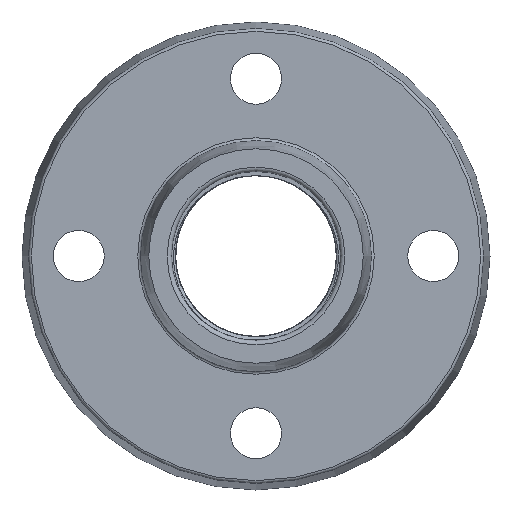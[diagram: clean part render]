
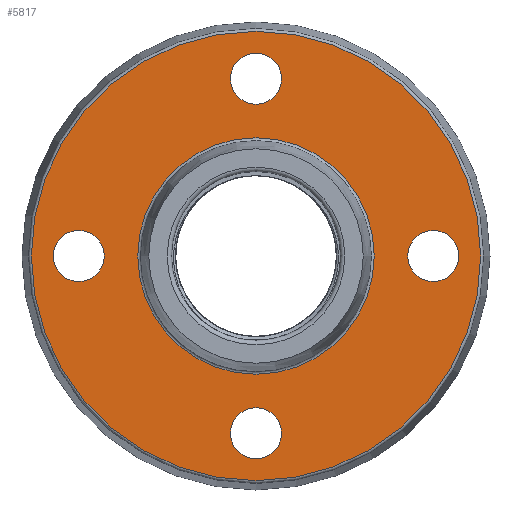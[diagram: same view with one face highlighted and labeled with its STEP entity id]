
A CAD part, left-side view. The second image highlights one B-rep face of the part: STEP entity #5817.
In plain terms, the highlighted planar face has unit normal (-1, 0, 0).
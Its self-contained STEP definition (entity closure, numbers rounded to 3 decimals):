
#90=FACE_BOUND('',#1576,.T.);
#91=FACE_BOUND('',#1577,.T.);
#92=FACE_BOUND('',#1578,.T.);
#93=FACE_BOUND('',#1579,.T.);
#94=FACE_BOUND('',#1580,.T.);
#153=PLANE('',#6839);
#1126=FACE_OUTER_BOUND('',#1575,.T.);
#1575=EDGE_LOOP('',(#5176));
#1576=EDGE_LOOP('',(#5177));
#1577=EDGE_LOOP('',(#5178));
#1578=EDGE_LOOP('',(#5179));
#1579=EDGE_LOOP('',(#5180));
#1580=EDGE_LOOP('',(#5181));
#2229=CIRCLE('',#6823,9.);
#2231=CIRCLE('',#6827,9.);
#2233=CIRCLE('',#6831,9.);
#2235=CIRCLE('',#6835,9.);
#2236=CIRCLE('',#6837,41.674);
#2238=CIRCLE('',#6840,79.199);
#2694=VERTEX_POINT('',#10963);
#2696=VERTEX_POINT('',#10969);
#2698=VERTEX_POINT('',#10975);
#2700=VERTEX_POINT('',#10981);
#2701=VERTEX_POINT('',#10984);
#2703=VERTEX_POINT('',#10989);
#3531=EDGE_CURVE('',#2694,#2694,#2229,.T.);
#3533=EDGE_CURVE('',#2696,#2696,#2231,.T.);
#3535=EDGE_CURVE('',#2698,#2698,#2233,.T.);
#3537=EDGE_CURVE('',#2700,#2700,#2235,.T.);
#3538=EDGE_CURVE('',#2701,#2701,#2236,.T.);
#3540=EDGE_CURVE('',#2703,#2703,#2238,.T.);
#5176=ORIENTED_EDGE('',*,*,#3540,.F.);
#5177=ORIENTED_EDGE('',*,*,#3533,.T.);
#5178=ORIENTED_EDGE('',*,*,#3535,.T.);
#5179=ORIENTED_EDGE('',*,*,#3537,.T.);
#5180=ORIENTED_EDGE('',*,*,#3531,.T.);
#5181=ORIENTED_EDGE('',*,*,#3538,.F.);
#5817=ADVANCED_FACE('',(#1126,#90,#91,#92,#93,#94),#153,.T.);
#6823=AXIS2_PLACEMENT_3D('',#10964,#9017,#9018);
#6827=AXIS2_PLACEMENT_3D('',#10970,#9025,#9026);
#6831=AXIS2_PLACEMENT_3D('',#10976,#9033,#9034);
#6835=AXIS2_PLACEMENT_3D('',#10982,#9041,#9042);
#6837=AXIS2_PLACEMENT_3D('',#10985,#9045,#9046);
#6839=AXIS2_PLACEMENT_3D('',#10988,#9049,#9050);
#6840=AXIS2_PLACEMENT_3D('',#10990,#9051,#9052);
#9017=DIRECTION('center_axis',(1.,0.,0.));
#9018=DIRECTION('ref_axis',(0.,0.,1.));
#9025=DIRECTION('center_axis',(1.,0.,0.));
#9026=DIRECTION('ref_axis',(0.,1.,0.));
#9033=DIRECTION('center_axis',(1.,0.,0.));
#9034=DIRECTION('ref_axis',(0.,0.,-1.));
#9041=DIRECTION('center_axis',(1.,0.,0.));
#9042=DIRECTION('ref_axis',(0.,-1.,0.));
#9045=DIRECTION('center_axis',(-1.,0.,0.));
#9046=DIRECTION('ref_axis',(0.,1.,0.));
#9049=DIRECTION('center_axis',(-1.,0.,0.));
#9050=DIRECTION('ref_axis',(0.,0.,1.));
#9051=DIRECTION('center_axis',(1.,0.,0.));
#9052=DIRECTION('ref_axis',(0.,1.,0.));
#10963=CARTESIAN_POINT('',(22.25,62.5,9.));
#10964=CARTESIAN_POINT('Origin',(22.25,62.5,0.));
#10969=CARTESIAN_POINT('',(22.25,9.,-62.5));
#10970=CARTESIAN_POINT('Origin',(22.25,0.,-62.5));
#10975=CARTESIAN_POINT('',(22.25,-62.5,-9.));
#10976=CARTESIAN_POINT('Origin',(22.25,-62.5,0.));
#10981=CARTESIAN_POINT('',(22.25,-9.,62.5));
#10982=CARTESIAN_POINT('Origin',(22.25,0.,62.5));
#10984=CARTESIAN_POINT('',(22.25,-41.674,0.));
#10985=CARTESIAN_POINT('Origin',(22.25,0.,0.));
#10988=CARTESIAN_POINT('Origin',(22.25,-40.8,0.));
#10989=CARTESIAN_POINT('',(22.25,-79.199,0.));
#10990=CARTESIAN_POINT('Origin',(22.25,0.,0.));
